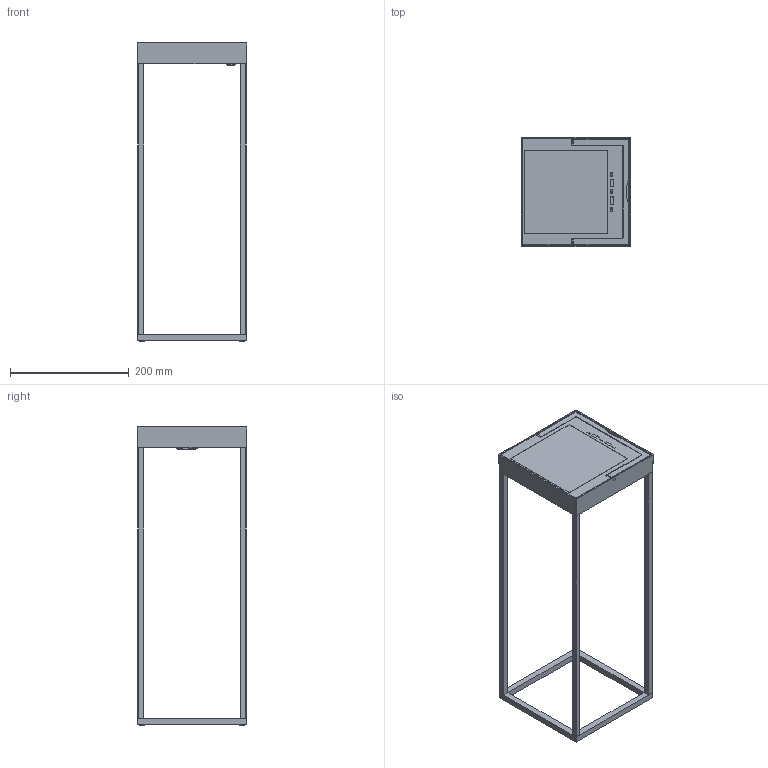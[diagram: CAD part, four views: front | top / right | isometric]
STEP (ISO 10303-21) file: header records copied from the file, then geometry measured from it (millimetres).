
FILE_DESCRIPTION(/* description */ (''),/* implementation_level */ '2;1');
FILE_NAME(/* name */ 'C:\Users\FrancoSartori\Documents\FARO\01_En Proceso\00_KASP\03_Publicación\71913.stp',/* time_stamp */ '2021-04-29T10:25:52+02:00',/* author */ ('FrancoSartori'),/* organization */ (''),/* preprocessor_version */ 'ST-DEVELOPER v18.1',/* originating_system */ 'AutoCAD Mechanical',/* authorisation */ '');
FILE_SCHEMA (('AUTOMOTIVE_DESIGN { 1 0 10303 214 3 1 1 }'));
Length unit declared in the file: millimetre
Products named in the file (3): Product; 71912_ 71913_ - LAMP-474479-Export; FamilyGeomCombination_474072-Export
Assembly tree (2 placements, depth 2):
  Product
    71912_ 71913_ - LAMP-474479-Export
    FamilyGeomCombination_474072-Export
Bounding box: 184.04 x 184.04 x 501.5 mm (x, y, z)
Volume: 561783.8 mm3; surface area: 370965.2 mm2
Topology: 10 solids, 14 shells, 269 faces, 721 edges, 477 vertices
Faces by surface type: plane 169, cylinder 80, cone 8, bspline 8, torus 4
Entity records: 9193 total; most frequent: CARTESIAN_POINT 2360, ORIENTED_EDGE 1370, DIRECTION 1365, EDGE_CURVE 721, LINE 505, VECTOR 505, VERTEX_POINT 477, AXIS2_PLACEMENT_3D 430
